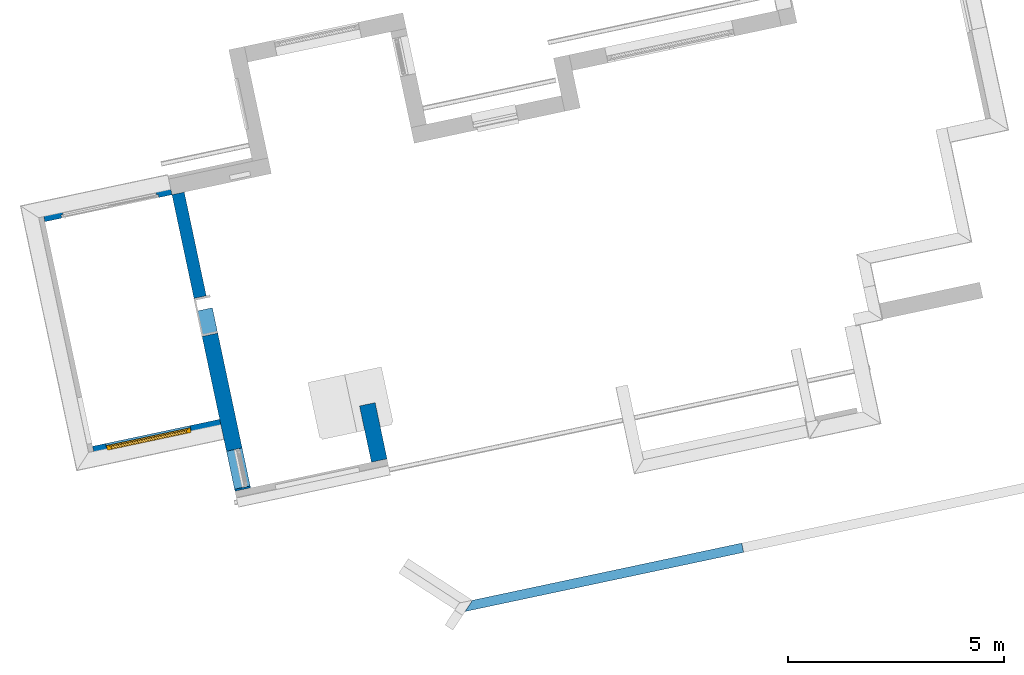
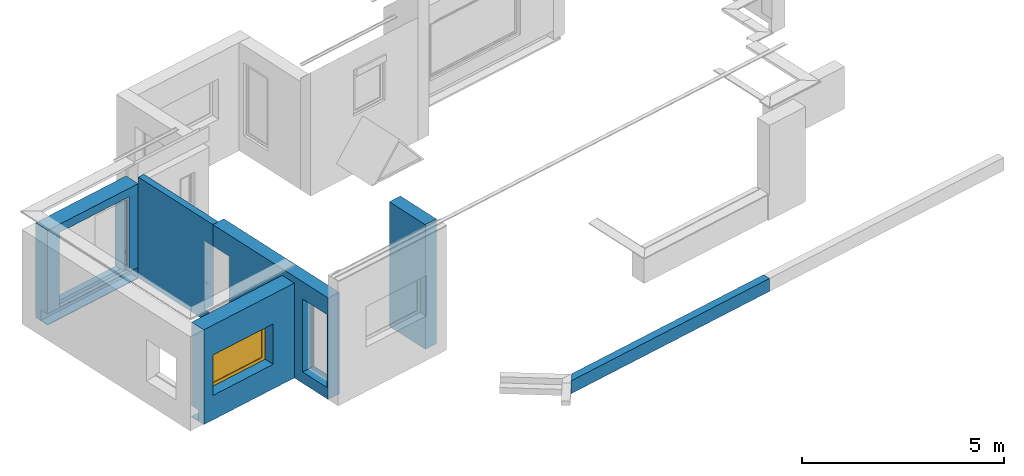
"""IFC2X3 building model written with IfcOpenShell, lengths in centimetres."""

import ifcopenshell
import ifcopenshell.guid

model = None  # the IFC model being written
_history = None  # IfcOwnerHistory: only IFC2X3 demands one
_inside = {}  # id of a spatial element -> (the spatial element, [elements in it])
_under = {}  # id of a project, library or spatial element -> (it, [spatial elements below it])
_declared = {}  # id of a project -> (the project, [libraries it declares])
_typed = {}  # id of a type object -> (the type object, [elements of that type])
_made_of = {}  # id of a material, layer set ... -> (it, [elements and type objects made of it])


def new_model(schema):
    """Start an empty IFC model of exactly this schema.

    Asked for "IFC4X3", IfcOpenShell would pick the latest addendum, in which some entities
    have other attributes; the version numbers below select the first issue.
    IFC2X3 requires an IfcOwnerHistory on every rooted entity: one is made here for all.
    """
    global model, _history
    if schema == "IFC4X3":
        model = ifcopenshell.file(schema_version=(4, 3, 0, 0))
    else:
        model = ifcopenshell.file(schema=schema)
    _inside.clear()
    _under.clear()
    _declared.clear()
    _typed.clear()
    _made_of.clear()
    _history = None
    if model.schema == "IFC2X3":
        org = make("IfcOrganization", Name="unknown")
        user = make(
            "IfcPersonAndOrganization",
            ThePerson=make("IfcPerson", FamilyName="unknown"),
            TheOrganization=org,
        )
        app = make(
            "IfcApplication",
            ApplicationDeveloper=org,
            Version="unknown",
            ApplicationFullName="unknown",
            ApplicationIdentifier="unknown",
        )
        _history = make(
            "IfcOwnerHistory",
            OwningUser=user,
            OwningApplication=app,
            ChangeAction="ADDED",
            CreationDate=0,
        )
    return model


def make(cls, **values):
    """One entity of the class cls with the attributes given. An attribute that is None is left unset."""
    return model.create_entity(
        cls, **{name: value for name, value in values.items() if value is not None}
    )


def entity(cls, *values):
    """Any entity or typed value of the class cls, its attributes in the order of the schema. None: left unset."""
    e = model.create_entity(cls)
    for i, value in enumerate(values):
        if value is not None:
            e[i] = value
    return e


def rooted(cls, **values):
    """An entity with a GlobalId (a new one), such as an element, a storey or a relation."""
    return make(cls, GlobalId=ifcopenshell.guid.new(), OwnerHistory=_history, **values)


def si_unit(unit_type, name, prefix=None):
    """IfcSIUnit, for example si_unit("LENGTHUNIT", "METRE", prefix="MILLI")."""
    return make("IfcSIUnit", UnitType=unit_type, Prefix=prefix, Name=name)


def converted_unit(unit_type, name, factor, base, dimensions=None, offset=None):
    """IfcConversionBasedUnit, such as the inch: factor (a typed value) times the base unit."""
    return make(
        "IfcConversionBasedUnit"
        if offset is None
        else "IfcConversionBasedUnitWithOffset",
        ConversionOffset=offset,
        Dimensions=None
        if dimensions is None
        else entity("IfcDimensionalExponents", *dimensions),
        UnitType=unit_type,
        Name=name,
        ConversionFactor=make(
            "IfcMeasureWithUnit", ValueComponent=factor, UnitComponent=base
        ),
    )


def derived_unit(unit_type, elements):
    """IfcDerivedUnit: a product of units, each with its exponent."""
    return make(
        "IfcDerivedUnit",
        Elements=[
            make("IfcDerivedUnitElement", Unit=unit, Exponent=power)
            for unit, power in elements
        ],
        UnitType=unit_type,
    )


def assignment(units):
    """IfcUnitAssignment: the units of a project."""
    return None if units is None else make("IfcUnitAssignment", Units=units)


def point(xyz):
    """IfcCartesianPoint."""
    return None if xyz is None else make("IfcCartesianPoint", Coordinates=xyz)


def direction(xyz):
    """IfcDirection."""
    return None if xyz is None else make("IfcDirection", DirectionRatios=xyz)


def frame(location, z_axis=None, x_axis=None):
    """IfcAxis2Placement3D, a coordinate frame: its origin and axes. An axis left out is left unset."""
    return make(
        "IfcAxis2Placement3D",
        Location=point(location),
        Axis=direction(z_axis),
        RefDirection=direction(x_axis),
    )


def frame_2d(location, x_axis=None):
    """IfcAxis2Placement2D, a coordinate frame in the plane: its origin and x axis."""
    return make(
        "IfcAxis2Placement2D", Location=point(location), RefDirection=direction(x_axis)
    )


def origin():
    """The frame at (0, 0, 0) with its axes left unset."""
    return frame((0.0, 0.0, 0.0))


def place(relative_to, where):
    """IfcLocalPlacement: puts the frame where relative to a parent placement (None: the world)."""
    return make(
        "IfcLocalPlacement", PlacementRelTo=relative_to, RelativePlacement=where
    )


def context(
    kind, dimensions, precision=None, world=None, true_north=None, identifier=None
):
    """IfcGeometricRepresentationContext, for example the 3D "Model" context."""
    return make(
        "IfcGeometricRepresentationContext",
        ContextIdentifier=identifier,
        ContextType=kind,
        CoordinateSpaceDimension=dimensions,
        Precision=precision,
        WorldCoordinateSystem=world,
        TrueNorth=true_north,
    )


def subcontext(parent, identifier, kind, view, scale=None):
    """IfcGeometricRepresentationSubContext, for example "Body" below "Model"."""
    return make(
        "IfcGeometricRepresentationSubContext",
        ContextIdentifier=identifier,
        ContextType=kind,
        ParentContext=parent,
        TargetScale=scale,
        TargetView=view,
    )


def project(units=None, contexts=None):
    """IfcProject with its units and contexts."""
    return rooted(
        "IfcProject",
        Name="project",
        RepresentationContexts=contexts,
        UnitsInContext=assignment(units),
    )


def spatial(cls, under=None, at=None, **own):
    """A site, building, storey or space (cls), placed at a placement, below another one or the project."""
    s = rooted(cls, ObjectPlacement=at, **own)
    if under is not None:
        _under.setdefault(under.id(), (under, []))[1].append(s)
    return s


def polyline(points):
    """IfcPolyline through the points."""
    return make("IfcPolyline", Points=[point(p) for p in points])


def profile(cls, at=None, kind="AREA", **sizes):
    """A parametric profile (cls). Its sizes go by their IFC names, for example OverallWidth=200.0."""
    return make(cls, ProfileType=kind, Position=at, **sizes)


def rectangle(**sizes):
    """IfcRectangleProfileDef."""
    return profile("IfcRectangleProfileDef", **sizes)


def outline(outer, holes=None, kind="AREA"):
    """IfcArbitraryClosedProfileDef: a profile drawn as a closed curve; with holes, ...WithVoids."""
    if holes is None:
        return make("IfcArbitraryClosedProfileDef", ProfileType=kind, OuterCurve=outer)
    return make(
        "IfcArbitraryProfileDefWithVoids",
        ProfileType=kind,
        OuterCurve=outer,
        InnerCurves=holes,
    )


def extrude(swept, where, along, depth):
    """IfcExtrudedAreaSolid: the profile swept, set in the frame where, extruded along a direction by depth."""
    return make(
        "IfcExtrudedAreaSolid",
        SweptArea=swept,
        Position=where,
        ExtrudedDirection=direction(along),
        Depth=depth,
    )


def clip(a, b, op="DIFFERENCE"):
    """IfcBooleanClippingResult: the solid a cut by the half space b."""
    return make(
        "IfcBooleanClippingResult", Operator=op, FirstOperand=a, SecondOperand=b
    )


def bounded_halfspace(plane, agree, where, boundary):
    """IfcPolygonalBoundedHalfSpace: a half space limited to a polygon's prism."""
    return make(
        "IfcPolygonalBoundedHalfSpace",
        BaseSurface=make("IfcPlane", Position=plane),
        AgreementFlag=agree,
        Position=where,
        PolygonalBoundary=boundary,
    )


def faces_of(points, faces, orient=None, outer=None):
    """IfcFace entities. A face is a list of loops; a loop is a list of indices into points, from 0.

    orient and outer hold one flag for each loop. By default every Orientation is true, the
    first loop of a face is its IfcFaceOuterBound and the others are IfcFaceBound.
    """
    made = []
    for i, loops in enumerate(faces):
        bounds = []
        for j, loop in enumerate(loops):
            is_outer = j == 0 if outer is None else outer[i][j]
            bounds.append(
                make(
                    "IfcFaceOuterBound" if is_outer else "IfcFaceBound",
                    Bound=make("IfcPolyLoop", Polygon=[points[k] for k in loop]),
                    Orientation=True if orient is None else orient[i][j],
                )
            )
        made.append(make("IfcFace", Bounds=bounds))
    return made


def faceted_brep(points, faces, orient=None, outer=None, voids=None):
    """IfcFacetedBrep: a solid bounded by flat faces; with voids (closed shells), ...WithVoids."""
    shared = [point(p) for p in points]
    hull = make("IfcClosedShell", CfsFaces=faces_of(shared, faces, orient, outer))
    if voids is None:
        return make("IfcFacetedBrep", Outer=hull)
    return make(
        "IfcFacetedBrepWithVoids",
        Outer=hull,
        Voids=[
            make(cls, CfsFaces=faces_of(shared, fs, o, b)) for cls, fs, o, b in voids
        ],
    )


def shape(context_of_items, identifier, shape_type, items):
    """IfcShapeRepresentation: the items that make up one representation, for example the "Body"."""
    return make(
        "IfcShapeRepresentation",
        ContextOfItems=context_of_items,
        RepresentationIdentifier=identifier,
        RepresentationType=shape_type,
        Items=items,
    )


def source(mapping_origin, context_of_items, identifier, shape_type, items):
    """IfcRepresentationMap: a shape defined once, which mapped items show again and again."""
    return make(
        "IfcRepresentationMap",
        MappingOrigin=mapping_origin,
        MappedRepresentation=shape(context_of_items, identifier, shape_type, items),
    )


def transform(
    local_origin,
    x_axis=None,
    y_axis=None,
    z_axis=None,
    scale=None,
    scale2=None,
    scale3=None,
    uniform=True,
):
    """IfcCartesianTransformationOperator3D, or its non-uniform kind. x_axis, y_axis, z_axis: its Axis1, 2, 3."""
    if uniform:
        return make(
            "IfcCartesianTransformationOperator3D",
            Axis1=direction(x_axis),
            Axis2=direction(y_axis),
            LocalOrigin=point(local_origin),
            Scale=scale,
            Axis3=direction(z_axis),
        )
    return make(
        "IfcCartesianTransformationOperator3DnonUniform",
        Axis1=direction(x_axis),
        Axis2=direction(y_axis),
        LocalOrigin=point(local_origin),
        Scale=scale,
        Axis3=direction(z_axis),
        Scale2=scale2,
        Scale3=scale3,
    )


def mapped(mapping_source, mapping_target):
    """IfcMappedItem: shows the shape of a source again, moved by a transform."""
    return make(
        "IfcMappedItem", MappingSource=mapping_source, MappingTarget=mapping_target
    )


def material(Name=None, Category=None):
    """IfcMaterial."""
    return make("IfcMaterial", Name=Name, Category=Category)


def material_list(materials):
    """IfcMaterialList."""
    return make("IfcMaterialList", Materials=materials)


def layer(
    of_material, thickness, ventilated=None, Name=None, Category=None, Priority=None
):
    """IfcMaterialLayer: one layer of a wall or slab, of a material (None: an air gap)."""
    return make(
        "IfcMaterialLayer",
        Material=of_material,
        LayerThickness=thickness,
        IsVentilated=ventilated,
        Name=Name,
        Category=Category,
        Priority=Priority,
    )


def layer_set(layers, Name=None):
    """IfcMaterialLayerSet."""
    return make("IfcMaterialLayerSet", MaterialLayers=layers, LayerSetName=Name)


def layer_usage(for_layer_set, set_direction, sense, offset, extent=None):
    """IfcMaterialLayerSetUsage: how a layer set lies in its element."""
    return make(
        "IfcMaterialLayerSetUsage",
        ForLayerSet=for_layer_set,
        LayerSetDirection=set_direction,
        DirectionSense=sense,
        OffsetFromReferenceLine=offset,
        ReferenceExtent=extent,
    )


def made_of(thing, what):
    """Note that an element or type object is made of a material, layer set ...; save() writes the relation."""
    if what is not None:
        _made_of.setdefault(what.id(), (what, []))[1].append(thing)
    return thing


def type_object(cls, material=None, **own):
    """A type object (cls), such as IfcWallType, which elements share."""
    return made_of(rooted(cls, **own), material)


def type_shapes(of_type, sources):
    """Give a type object the sources (RepresentationMaps) that its elements show as mapped items."""
    of_type.RepresentationMaps = sources


def element(
    cls,
    number,
    at=None,
    inside=None,
    cuts=None,
    type_object=None,
    material=None,
    context=None,
    identifier="Body",
    shape_type=None,
    held_by="IfcProductDefinitionShape",
    body=None,
    shapes=None,
    **own,
):
    """One element of the class cls, such as IfcWall. Its Tag is "e" and its number.

    at: its placement. inside: the storey or other place that contains it. cuts: it is an
    opening in that element (IfcRelVoidsElement). A single representation is given by context,
    identifier, shape_type and body (its items); several are given by shapes. held_by: the class
    of the entity that holds the representations. save() writes the other relations.
    """
    e = rooted(cls, Tag="e%d" % number, ObjectPlacement=at, **own)
    if body is not None:
        shapes = [shape(context, identifier, shape_type, body)]
    if shapes is not None:
        e.Representation = make(held_by, Representations=shapes)
    if inside is not None:
        _inside.setdefault(inside.id(), (inside, []))[1].append(e)
    if cuts is not None:
        rooted(
            "IfcRelVoidsElement", RelatingBuildingElement=cuts, RelatedOpeningElement=e
        )
    if type_object is not None:
        _typed.setdefault(type_object.id(), (type_object, []))[1].append(e)
    return made_of(e, material)


def fill(opening, filler):
    """IfcRelFillsElement: the door or window that sits in an opening."""
    return rooted(
        "IfcRelFillsElement",
        RelatingOpeningElement=opening,
        RelatedBuildingElement=filler,
    )


def aggregate(whole, parts):
    """IfcRelAggregates: a whole, such as a stair, and the parts it consists of."""
    return rooted("IfcRelAggregates", RelatingObject=whole, RelatedObjects=parts)


def save(model, path):
    """Write the relations noted so far, then the file.

    IfcRelAggregates (storeys below a building ...), IfcRelContainedInSpatialStructure (elements
    in a storey), IfcRelDefinesByType, IfcRelAssociatesMaterial and IfcRelDeclares: one each for
    every whole, place, type object, material and project.
    """
    for whole, parts in _under.values():
        aggregate(whole, parts)
    for where, things in _inside.values():
        rooted(
            "IfcRelContainedInSpatialStructure",
            RelatedElements=things,
            RelatingStructure=where,
        )
    for kind, things in _typed.values():
        rooted("IfcRelDefinesByType", RelatedObjects=things, RelatingType=kind)
    for what, things in _made_of.values():
        rooted("IfcRelAssociatesMaterial", RelatedObjects=things, RelatingMaterial=what)
    for by, libraries in _declared.values():
        rooted("IfcRelDeclares", RelatingContext=by, RelatedDefinitions=libraries)
    model.write(path)


model = new_model("IFC2X3")

# Units and contexts
model_context = context("Model", 3, precision=0.001, world=origin(), true_north=direction((6.12303176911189e-17, 1.0)))
body_context = subcontext(model_context, "Body", "Model", "MODEL_VIEW")
ifc_project = project(units=[si_unit("LENGTHUNIT", "METRE", prefix="CENTI"), si_unit("AREAUNIT", "SQUARE_METRE"), si_unit("VOLUMEUNIT", "CUBIC_METRE"), converted_unit("PLANEANGLEUNIT", "DEGREE", entity("IfcRatioMeasure", 0.0174532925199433), si_unit("PLANEANGLEUNIT", "RADIAN"), dimensions=[0, 0, 0, 0, 0, 0, 0]), si_unit("MASSUNIT", "GRAM", prefix="KILO"), derived_unit("MASSDENSITYUNIT", [(si_unit("MASSUNIT", "GRAM", prefix="KILO"), 1), (si_unit("LENGTHUNIT", "METRE"), -3)]), derived_unit("IONCONCENTRATIONUNIT", [(si_unit("MASSUNIT", "GRAM", prefix="KILO"), 1), (si_unit("LENGTHUNIT", "METRE"), -3)]), derived_unit("MOMENTOFINERTIAUNIT", [(si_unit("LENGTHUNIT", "METRE"), 4)]), si_unit("TIMEUNIT", "SECOND"), si_unit("FREQUENCYUNIT", "HERTZ"), si_unit("THERMODYNAMICTEMPERATUREUNIT", "DEGREE_CELSIUS"), derived_unit("THERMALTRANSMITTANCEUNIT", [(si_unit("MASSUNIT", "GRAM", prefix="KILO"), 1), (si_unit("THERMODYNAMICTEMPERATUREUNIT", "KELVIN"), -1), (si_unit("TIMEUNIT", "SECOND"), -3)]), derived_unit("THERMALCONDUCTANCEUNIT", [(si_unit("MASSUNIT", "GRAM", prefix="KILO"), 1), (si_unit("THERMODYNAMICTEMPERATUREUNIT", "KELVIN"), -1), (si_unit("TIMEUNIT", "SECOND"), -3), (si_unit("LENGTHUNIT", "METRE"), 1)]), derived_unit("VOLUMETRICFLOWRATEUNIT", [(si_unit("LENGTHUNIT", "METRE"), 3), (si_unit("TIMEUNIT", "SECOND"), -1)]), derived_unit("MASSFLOWRATEUNIT", [(si_unit("MASSUNIT", "GRAM", prefix="KILO"), 1), (si_unit("TIMEUNIT", "SECOND"), -1)]), derived_unit("ROTATIONALFREQUENCYUNIT", [(si_unit("TIMEUNIT", "SECOND"), -1)]), si_unit("ELECTRICCURRENTUNIT", "AMPERE"), si_unit("ELECTRICVOLTAGEUNIT", "VOLT"), si_unit("POWERUNIT", "WATT"), si_unit("FORCEUNIT", "NEWTON", prefix="KILO"), si_unit("ILLUMINANCEUNIT", "LUX"), si_unit("LUMINOUSFLUXUNIT", "LUMEN"), si_unit("LUMINOUSINTENSITYUNIT", "CANDELA"), derived_unit("USERDEFINED", [(si_unit("MASSUNIT", "GRAM", prefix="KILO"), -1), (si_unit("LENGTHUNIT", "METRE"), -2), (si_unit("TIMEUNIT", "SECOND"), 3), (si_unit("LUMINOUSFLUXUNIT", "LUMEN"), 1)]), derived_unit("USERDEFINED", [(si_unit("MASSUNIT", "GRAM", prefix="KILO"), 1), (si_unit("TIMEUNIT", "SECOND"), -3), (si_unit("LENGTHUNIT", "METRE"), 3), (si_unit("ELECTRICCURRENTUNIT", "AMPERE"), -2)]), derived_unit("SOUNDPOWERUNIT", [(si_unit("MASSUNIT", "GRAM", prefix="KILO"), 1), (si_unit("TIMEUNIT", "SECOND"), -3), (si_unit("LENGTHUNIT", "METRE"), 2)]), derived_unit("SOUNDPRESSUREUNIT", [(si_unit("MASSUNIT", "GRAM", prefix="KILO"), 1), (si_unit("LENGTHUNIT", "METRE"), -1), (si_unit("TIMEUNIT", "SECOND"), -2)]), derived_unit("LINEARVELOCITYUNIT", [(si_unit("LENGTHUNIT", "METRE"), 1), (si_unit("TIMEUNIT", "SECOND"), -1)]), si_unit("PRESSUREUNIT", "PASCAL"), derived_unit("USERDEFINED", [(si_unit("MASSUNIT", "GRAM", prefix="KILO"), 1), (si_unit("LENGTHUNIT", "METRE"), -2), (si_unit("TIMEUNIT", "SECOND"), -2)]), derived_unit("LINEARFORCEUNIT", [(si_unit("MASSUNIT", "GRAM", prefix="KILO"), 1), (si_unit("TIMEUNIT", "SECOND"), -2)]), derived_unit("PLANARFORCEUNIT", [(si_unit("MASSUNIT", "GRAM", prefix="KILO"), 1), (si_unit("LENGTHUNIT", "METRE"), -1), (si_unit("TIMEUNIT", "SECOND"), -2)]), derived_unit("SPECIFICHEATCAPACITYUNIT", [(si_unit("THERMODYNAMICTEMPERATUREUNIT", "KELVIN"), -1), (si_unit("LENGTHUNIT", "METRE"), 2), (si_unit("TIMEUNIT", "SECOND"), -2)]), derived_unit("HEATINGVALUEUNIT", [(si_unit("LENGTHUNIT", "METRE"), 2), (si_unit("TIMEUNIT", "SECOND"), -2)]), derived_unit("VAPORPERMEABILITYUNIT", [(si_unit("LENGTHUNIT", "METRE"), -1), (si_unit("TIMEUNIT", "SECOND"), 1)]), derived_unit("DYNAMICVISCOSITYUNIT", [(si_unit("MASSUNIT", "GRAM", prefix="KILO"), 1), (si_unit("TIMEUNIT", "SECOND"), -1), (si_unit("LENGTHUNIT", "METRE"), -1)]), derived_unit("THERMALEXPANSIONCOEFFICIENTUNIT", [(si_unit("THERMODYNAMICTEMPERATUREUNIT", "KELVIN"), -1)]), derived_unit("MODULUSOFELASTICITYUNIT", [(si_unit("MASSUNIT", "GRAM", prefix="KILO"), 1), (si_unit("LENGTHUNIT", "METRE"), -1), (si_unit("TIMEUNIT", "SECOND"), -2)]), derived_unit("ISOTHERMALMOISTURECAPACITYUNIT", [(si_unit("LENGTHUNIT", "METRE"), 3), (si_unit("MASSUNIT", "GRAM", prefix="KILO"), -1)]), derived_unit("MOISTUREDIFFUSIVITYUNIT", [(si_unit("TIMEUNIT", "SECOND"), -1), (si_unit("LENGTHUNIT", "METRE"), 2)])], contexts=[model_context])

# Site, building, storey
site_placement = place(None, frame((14083.8920177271, -6853.25409548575, 6900.0), z_axis=(0.0, 0.0, 1.0), x_axis=(0.978188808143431, 0.207717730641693, 0.0)))
site = spatial("IfcSite", under=ifc_project, at=site_placement, Name="Surface", CompositionType="ELEMENT")
building_placement = place(site_placement, origin())
building = spatial("IfcBuilding", under=site, at=building_placement, CompositionType="ELEMENT")
storey_1_placement = place(building_placement, frame((0.0, 0.0, -17.0)))
storey_1 = spatial("IfcBuildingStorey", under=building, at=storey_1_placement, Name="Rez de chaussée (SD)", CompositionType="ELEMENT", Elevation=-16.9999999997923)

# Wall
ifc_material_1 = material(Name="__ ENDUIT_Blanc")
ifc_layer_1 = layer(ifc_material_1, 2.0)
ifc_material_2 = material(Name="__ BETON_parpaings")
ifc_layer_2 = layer(ifc_material_2, 20.0)
ifc_material_3 = material(Name="__ ISOLANT (pat 1)")
ifc_layer_3 = layer(ifc_material_3, 13.0)
ifc_layer_4 = layer(ifc_material_1, 2.0)
ifc_layer_set_1 = layer_set([ifc_layer_1, ifc_layer_2, ifc_layer_3, ifc_layer_4], Name="Mur de base:*BRIQUE 37 (20 +INT 13+2 + EXT 2) (Iso+BA13)(enduit)")
ifc_layer_usage_1 = layer_usage(ifc_layer_set_1, "AXIS2", "POSITIVE", -18.5)
wall_type_1 = type_object("IfcWallType", Name="Mur de base:*BRIQUE 37 (20 +INT 13+2 + EXT 2) (Iso+BA13)(enduit)", PredefinedType="STANDARD", material=ifc_layer_set_1)
wall_1_placement = place(storey_1_placement, frame((-7395.59727892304, 14712.6724778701, 0.0), z_axis=(0.0, 0.0, 1.0), x_axis=(0.0, 1.0, 0.0)))
element("IfcWallStandardCase", 1, at=wall_1_placement, inside=storey_1, type_object=wall_type_1, material=ifc_layer_usage_1, Name="Mur de base:*BRIQUE 37 (20 +INT 13+2 + EXT 2) (Iso+BA13)(enduit)", ObjectType="Mur de base:*BRIQUE 37 (20 +INT 13+2 + EXT 2) (Iso+BA13)(enduit)", context=body_context, shape_type="SweptSolid", body=[
    extrude(rectangle(XDim=132.999999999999, YDim=37.0000000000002, at=frame_2d((66.4999999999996, -3.26849658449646e-13), x_axis=(-1.0, 0.0))), origin(), (0.0, 0.0, 1.0), 375.999999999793),
])

# Wall, openings
ifc_layer_usage_2 = layer_usage(ifc_layer_set_1, "AXIS2", "NEGATIVE", 18.5)
wall_2_placement = place(storey_1_placement, frame((-7718.4551432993, 14712.6724778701, 0.0), z_axis=(0.0, 0.0, 1.0), x_axis=(0.0, 1.0, 0.0)))
wall_2 = element("IfcWallStandardCase", 2, at=wall_2_placement, inside=storey_1, type_object=wall_type_1, material=ifc_layer_usage_2, Name="Mur de base:*BRIQUE 37 (20 +INT 13+2 + EXT 2) (Iso+BA13)(enduit)", ObjectType="Mur de base:*BRIQUE 37 (20 +INT 13+2 + EXT 2) (Iso+BA13)(enduit)", context=body_context, shape_type="SweptSolid", body=[
    extrude(rectangle(XDim=425.999999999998, YDim=37.0000000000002, at=frame_2d((212.999999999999, -3.5527136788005e-14), x_axis=(-1.0, 0.0))), origin(), (0.0, 0.0, 1.0), 305.999999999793),
])
opening_1_placement = place(wall_2_placement, origin())
element("IfcOpeningElement", 3, at=opening_1_placement, cuts=wall_2, Name="Mur de base:*BRIQUE 37 (20 +INT 13+2 + EXT 2) (Iso+BA13)(enduit)", ObjectType="Opening", context=body_context, shape_type="SweptSolid", body=[
    extrude(rectangle(XDim=207.5, YDim=7.00000000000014, at=frame_2d((-8.66418048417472e-13, 0.0), x_axis=(0.0, 1.0))), frame((362.49486685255, -123.499999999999, 137.750000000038), z_axis=(0.0, 1.0, 0.0), x_axis=(1.0, 0.0, 0.0)), (0.0, 0.0, 1.0), 90.0000000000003),
])
opening_2_placement = place(wall_2_placement, frame((4.45997477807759, 21.0, 28.3850445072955), z_axis=(0.0, 0.0, 1.0), x_axis=(0.0, -1.0, 0.0)))
element("IfcOpeningElement", 4, at=opening_2_placement, cuts=wall_2, Name="Mur de base:*BRIQUE 37 (20 +INT 13+2 + EXT 2) (Iso+BA13)(enduit)", ObjectType="Opening", context=body_context, shape_type="Brep", body=[
    faceted_brep([(39.5000000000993, 90.0, 225.614955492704), (39.5000000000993, 0.0, 225.614955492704), (39.5000000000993, 0.0, 5.61495549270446), (39.5000000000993, 90.0, 5.61495549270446), (2.50000000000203, 90.0, 225.614955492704), (2.50000000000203, 90.0, 5.61495549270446), (2.50000000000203, 0.0999999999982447, 5.61495549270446), (2.50000000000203, 0.0, 5.61495549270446), (2.50000000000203, 0.0, 225.614955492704), (34.2000000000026, 90.0, 225.614955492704), (34.2000000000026, 90.0, 225.714955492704), (34.3000000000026, 90.0, 225.714955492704), (34.3000000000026, 90.0, 225.614955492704), (33.0, 0.0, 5.61495549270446), (33.0, 0.0999999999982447, 5.61495549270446), (34.3000000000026, 0.0, 225.614955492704), (34.3000000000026, 0.0, 225.714955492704), (34.2000000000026, 0.0, 225.714955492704), (34.2000000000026, 0.0, 225.614955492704), (14.3000000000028, 0.0, 225.614955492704), (14.3000000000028, 0.0, 225.714955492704), (14.2000000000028, 0.0, 225.714955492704), (14.2000000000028, 0.0, 225.614955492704), (0.0, 0.0, 5.61495549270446), (0.0, 0.0, 0.0), (30.5025116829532, 0.0, 2.11559678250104), (33.0, 0.0, 2.11559678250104), (30.5025116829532, 0.0999999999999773, 2.11559678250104), (0.0, 0.0999999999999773, 0.0), (0.0, 0.0999999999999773, 5.61495549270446), (33.0, 0.0999999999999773, 2.11559678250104), (14.3000000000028, 0.0999999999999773, 225.714955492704), (14.3000000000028, 0.0999999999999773, 225.614955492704), (14.2000000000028, 0.0999999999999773, 225.614955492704), (14.2000000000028, 0.0999999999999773, 225.714955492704)], [[[0, 1, 2, 3]], [[4, 5, 6, 7, 8]], [[0, 3, 5, 4, 9, 10, 11, 12]], [[3, 2, 13, 14, 6, 5]], [[2, 1, 15, 16, 17, 18, 19, 20, 21, 22, 8, 7, 23, 24, 25, 26, 13]], [[1, 0, 12, 15]], [[27, 28, 29, 6, 14, 30]], [[27, 30, 26, 25]], [[30, 14, 13, 26]], [[29, 23, 7, 6]], [[29, 28, 24, 23]], [[28, 27, 25, 24]], [[31, 32, 33, 34]], [[31, 34, 21, 20]], [[34, 33, 22, 21]], [[32, 31, 20, 19]], [[12, 11, 16, 15]], [[11, 10, 17, 16]], [[10, 9, 18, 17]], [[4, 8, 22, 33, 32, 19, 18, 9]]]),
])
opening_3_placement = place(wall_2_placement, frame((365.994866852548, -18.5000000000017, 34.0)))
element("IfcOpeningElement", 5, at=opening_3_placement, cuts=wall_2, Name="*Porte_alveolaire:Pp 83 x 204:1", ObjectType="Opening", context=body_context, shape_type="SweptSolid", body=[
    extrude(rectangle(XDim=207.5, YDim=89.9999999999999, at=frame_2d((103.75, 45.0), x_axis=(1.0, 0.0))), frame((0.0, 0.0, 0.0), z_axis=(0.0, 1.0, 0.0), x_axis=(0.0, 0.0, 1.0)), (0.0, 0.0, 1.0), 37.0),
])

ifc_material_4 = material(Name="__ PIERRE______________________TEST")
ifc_layer_5 = layer(ifc_material_4, 10.0)
ifc_layer_6 = layer(ifc_material_2, 20.0)
ifc_layer_7 = layer(ifc_material_3, 13.0)
ifc_layer_8 = layer(ifc_material_1, 2.0)
ifc_layer_set_2 = layer_set([ifc_layer_5, ifc_layer_6, ifc_layer_7, ifc_layer_8], Name="Mur de base:*Mur (45) maçonné isolé + parement pierre")
ifc_layer_usage_3 = layer_usage(ifc_layer_set_2, "AXIS2", "NEGATIVE", 22.5)
wall_type_2 = type_object("IfcWallType", Name="Mur de base:*Mur (45) maçonné isolé + parement pierre", PredefinedType="STANDARD", material=ifc_layer_set_2)
wall_3_placement = place(storey_1_placement, frame((-8037.7551432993, 15436.4391445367, 0.0)))
wall_3 = element("IfcWallStandardCase", 6, at=wall_3_placement, inside=storey_1, type_object=wall_type_2, material=ifc_layer_usage_3, Name="Mur de base:*Mur (45) maçonné isolé + parement pierre", ObjectType="Mur de base:*Mur (45) maçonné isolé + parement pierre", context=body_context, shape_type="SweptSolid", body=[
    extrude(rectangle(XDim=300.800000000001, YDim=45.0000000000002, at=frame_2d((150.4, 0.0), x_axis=(-1.0, 0.0))), origin(), (0.0, 0.0, 1.0), 285.999999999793),
])
opening_4_placement = place(storey_1_placement, frame((-8037.7551432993, 15436.4391445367, 0.0)))
element("IfcOpeningElement", 7, at=opening_4_placement, cuts=wall_3, Name="Mur de base:*Mur (45) maçonné isolé + parement pierre:1", ObjectType="Opening", context=body_context, shape_type="SweptSolid", body=[
    extrude(rectangle(XDim=300.000000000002, YDim=24.9999999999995, at=frame_2d((-4.40536496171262e-13, 8.66862137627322e-13), x_axis=(1.0, 0.0))), frame((150.0, -10.0, 2.0), z_axis=(0.0, 0.0, 1.0), x_axis=(-1.0, 0.0, 0.0)), (0.0, 0.0, 1.0), 32.0),
])
opening_5_placement = place(wall_3_placement, frame((39.7999999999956, -50.0, 27.7207768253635)))
element("IfcOpeningElement", 8, at=opening_5_placement, cuts=wall_3, Name="Mur de base:*Mur (45) maçonné isolé + parement pierre", ObjectType="Opening", context=body_context, shape_type="Brep", body=[
    faceted_brep([(225.0, 0.0, 8.2792231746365), (225.0, 0.0, 228.279223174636), (5.0, 0.0, 228.279223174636), (5.0, 0.0, 8.2792231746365), (225.0, 27.5000000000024, 228.279223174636), (5.0, 27.5000000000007, 228.279223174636), (225.0, 27.5000000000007, 8.2792231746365), (230.0, 27.5000000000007, 8.2792231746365), (230.0, 27.5000000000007, 233.279223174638), (0.0, 27.5000000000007, 233.279223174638), (0.0, 27.5000000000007, 8.2792231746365), (5.0, 27.5000000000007, 8.2792231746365), (225.0, 35.4999999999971, 8.2792231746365), (225.0, 35.4999999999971, 6.7792231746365), (225.0, 100.0, 0.0), (225.0, 100.0, 228.279223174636), (225.0, 37.4999999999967, 228.279223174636), (225.0, 37.4999999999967, 8.2792231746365), (0.0, 34.5000000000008, 8.2792231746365), (4.0, 34.5000000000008, 8.2792231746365), (4.0, 37.4999999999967, 8.2792231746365), (5.0, 37.4999999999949, 8.27922317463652), (5.0, 35.4999999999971, 8.2792231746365), (226.0, 37.4999999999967, 8.2792231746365), (226.0, 34.5000000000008, 8.2792231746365), (230.0, 34.5000000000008, 8.2792231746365), (5.0, 100.0, 0.0), (5.0, 100.0, 228.279223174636), (5.0, 35.4999999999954, 6.7792231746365), (230.0, 34.5000000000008, 233.279223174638), (226.0, 34.5000000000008, 229.279223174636), (4.0, 34.5000000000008, 229.279223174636), (0.0, 34.5000000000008, 233.279223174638), (226.0, 37.4999999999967, 229.279223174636), (5.0, 37.4999999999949, 228.279223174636), (4.0, 37.4999999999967, 229.279223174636)], [[[0, 1, 2, 3]], [[2, 1, 4, 5]], [[6, 7, 8, 9, 10, 11, 5, 4]], [[12, 13, 14, 15, 16, 17]], [[3, 2, 5, 11]], [[0, 3, 11, 10, 18, 19, 20, 21, 22, 12, 17, 23, 24, 25, 7, 6]], [[15, 14, 26, 27]], [[14, 13, 28, 26]], [[13, 12, 22, 28]], [[7, 25, 29, 8]], [[25, 24, 30, 31, 19, 18, 32, 29]], [[24, 23, 33, 30]], [[23, 17, 16, 34, 21, 20, 35, 33]], [[8, 29, 32, 9]], [[31, 30, 33, 35]], [[32, 18, 10, 9]], [[19, 31, 35, 20]], [[27, 26, 28, 22, 21, 34]], [[1, 0, 6, 4]], [[15, 27, 34, 16]]]),
])

wall_4_placement = place(storey_1_placement, frame((-7736.9551432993, 14860.1724778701, 0.0), z_axis=(0.0, 0.0, 1.0), x_axis=(-1.0, 0.0, 0.0)))
wall_4 = element("IfcWallStandardCase", 9, at=wall_4_placement, inside=storey_1, type_object=wall_type_2, material=ifc_layer_usage_3, Name="Mur de base:*Mur (45) maçonné isolé + parement pierre", ObjectType="Mur de base:*Mur (45) maçonné isolé + parement pierre", context=body_context, shape_type="SweptSolid", body=[
    extrude(rectangle(XDim=300.799999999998, YDim=45.0000000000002, at=frame_2d((150.399999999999, 0.0), x_axis=(-1.0, 0.0))), origin(), (0.0, 0.0, 1.0), 285.999999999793),
])
opening_6_placement = place(storey_1_placement, frame((-7736.9551432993, 14860.1724778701, 0.0), z_axis=(0.0, 0.0, 1.0), x_axis=(-1.0, 0.0, 0.0)))
element("IfcOpeningElement", 10, at=opening_6_placement, cuts=wall_4, Name="Mur de base:*Mur (45) maçonné isolé + parement pierre:1", ObjectType="Opening", context=body_context, shape_type="SweptSolid", body=[
    extrude(rectangle(XDim=299.999999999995, YDim=24.9999999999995, at=frame_2d((4.40536496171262e-13, -8.66862137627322e-13), x_axis=(1.0, 0.0))), frame((150.800000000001, -10.0, 2.0), z_axis=(0.0, 0.0, 1.0), x_axis=(-1.0, 0.0, 0.0)), (0.0, 0.0, 1.0), 32.0),
])
opening_7_placement = place(wall_4_placement, frame((70.0, -22.5000000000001, 74.0)))
opening_7 = element("IfcOpeningElement", 11, at=opening_7_placement, cuts=wall_4, Name="OPTIMAL Top Turn Single Window-1:200x120 +VR:1", ObjectType="Opening", context=body_context, shape_type="SweptSolid", body=[
    extrude(rectangle(XDim=122.0, YDim=200.0, at=frame_2d((61.0, 100.000000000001), x_axis=(1.0, 0.0))), frame((0.0, 0.0, 0.0), z_axis=(0.0, 1.0, 0.0), x_axis=(0.0, 0.0, 1.0)), (0.0, 0.0, 1.0), 45.0),
])

# Storey
storey_2_placement = place(building_placement, frame((0.0, 0.0, 17.0)))
storey_2 = spatial("IfcBuildingStorey", under=building, at=storey_2_placement, Name="Rez de chaussée", CompositionType="ELEMENT", Elevation=17.0000000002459)

# Window
ifc_material_5 = material(Name="Fenêtre - Vitrage")
ifc_material_6 = material(Name="__ METAL_gris foncé (menuiseries acier)______________________TEST")
ifc_material_list = material_list([ifc_material_5, ifc_material_6])
window_style = type_object("IfcWindowStyle", Name="OPTIMAL Top Turn Single Window-1:200x120 +VR", ConstructionType="NOTDEFINED", OperationType="NOTDEFINED", ParameterTakesPrecedence=False, Sizeable=False, material=ifc_material_list)
shared_shape = source(origin(), body_context, "Body", "SweptSolid", [
    extrude(rectangle(XDim=0.399999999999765, YDim=178.6, at=frame_2d((0.0, -7.105427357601e-15), x_axis=(1.0, 0.0))), frame((100.0, 10.1000000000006, 10.7000000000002), z_axis=(0.0, 0.0, 1.0), x_axis=(0.0, 1.0, 0.0)), (0.0, 0.0, 1.0), 100.6),
    extrude(rectangle(XDim=0.399999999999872, YDim=178.6, at=frame_2d((0.0, 7.105427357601e-15), x_axis=(1.0, 0.0))), frame((100.0, 14.1000000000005, 10.7000000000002), z_axis=(0.0, 0.0, 1.0), x_axis=(0.0, 1.0, 0.0)), (0.0, 0.0, 1.0), 100.6),
    extrude(outline(polyline([(-54.5, -93.5), (54.5, -93.5), (54.5, 93.5), (-54.5, 93.5), (-54.5, -93.5)]), holes=[polyline([(50.3, -89.3), (-50.2999999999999, -89.3), (-50.2999999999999, 89.3), (50.3, 89.3), (50.3, -89.3)])]), frame((100.0, 8.0, 61.0), z_axis=(0.0, 1.0, 0.0), x_axis=(0.0, 0.0, 1.0)), (0.0, 0.0, 1.0), 8.20000000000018),
    extrude(outline(polyline([(-60.0, -99.0), (60.0, -99.0), (60.0, 99.0), (-60.0, 99.0), (-60.0, -99.0)]), holes=[polyline([(54.5, -93.5), (-54.5, -93.5), (-54.5, 93.5), (54.5, 93.5), (54.5, -93.5)])]), frame((100.0, 5.0, 61.0), z_axis=(0.0, 1.0, 0.0), x_axis=(0.0, 0.0, 1.0)), (0.0, 0.0, 1.0), 11.2000000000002),
])
type_shapes(window_style, [shared_shape])
window_placement = place(opening_7_placement, origin())
window = element("IfcWindow", 12, at=window_placement, inside=storey_2, type_object=window_style, material=ifc_material_list, Name="OPTIMAL Top Turn Single Window-1:200x120 +VR", ObjectType="OPTIMAL Top Turn Single Window-1:200x120 +VR", OverallHeight=122.0, OverallWidth=200.000000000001, context=body_context, shape_type="MappedRepresentation", body=[
    mapped(shared_shape, transform((0.0, 0.0, 0.0), scale=1.0)),
])

fill(opening_7, window)

# Wall
ifc_layer_9 = layer(ifc_material_4, 2.0)
ifc_material_7 = material(Name="__ BETON______________________TEST")
ifc_layer_10 = layer(ifc_material_7, 20.0)
ifc_layer_set_3 = layer_set([ifc_layer_9, ifc_layer_10], Name="Mur de base:*BETON 22 (20 + EXT 2) (parement)")
ifc_layer_usage_4 = layer_usage(ifc_layer_set_3, "AXIS2", "POSITIVE", -11.0)
wall_type_3 = type_object("IfcWallType", Name="Mur de base:*BETON 22 (20 + EXT 2) (parement)", PredefinedType="STANDARD", material=ifc_layer_set_3)
wall_5_placement = place(storey_1_placement, frame((-7274.02129771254, 14340.5964966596, 0.0)))
element("IfcWallStandardCase", 13, at=wall_5_placement, inside=storey_1, type_object=wall_type_3, material=ifc_layer_usage_4, Name="Mur de base:*BETON 22 (20 + EXT 2) (parement)", ObjectType="Mur de base:*BETON 22 (20 + EXT 2) (parement)", context=body_context, shape_type="SweptSolid", body=[
    extrude(outline(polyline([(659.104014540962, -11.0), (659.104014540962, 11.0), (22.0, 11.0), (0.0, -11.0), (659.104014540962, -11.0)])), origin(), (0.0, 0.0, 1.0), 39.0000000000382),
])

# Wall, openings
ifc_layer_11 = layer(ifc_material_1, 2.0)
ifc_layer_12 = layer(ifc_material_2, 20.0)
ifc_layer_13 = layer(ifc_material_3, 5.0)
ifc_layer_14 = layer(ifc_material_1, 2.0)
ifc_layer_set_4 = layer_set([ifc_layer_11, ifc_layer_12, ifc_layer_13, ifc_layer_14], Name="Mur de base:*BRIQUE 37 (20 +INT 6+2 + EXT 2) (Iso+BA13)(enduit)")
ifc_layer_usage_5 = layer_usage(ifc_layer_set_4, "AXIS2", "POSITIVE", -14.5)
wall_type_4 = type_object("IfcWallType", Name="Mur de base:*BRIQUE 37 (20 +INT 6+2 + EXT 2) (Iso+BA13)(enduit)", PredefinedType="STANDARD", material=ifc_layer_set_4)
wall_6_placement = place(storey_1_placement, frame((-7722.4551432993, 15413.9391445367, 2.0), z_axis=(0.0, 0.0, 1.0), x_axis=(0.0, -1.0, 0.0)))
wall_6 = element("IfcWallStandardCase", 14, at=wall_6_placement, inside=storey_1, type_object=wall_type_4, material=ifc_layer_usage_5, Name="Mur de base:*BRIQUE 37 (20 +INT 6+2 + EXT 2) (Iso+BA13)(enduit)", ObjectType="Mur de base:*BRIQUE 37 (20 +INT 6+2 + EXT 2) (Iso+BA13)(enduit)", context=body_context, shape_type="Clipping", body=[
    clip(clip(clip(clip(extrude(rectangle(XDim=275.266666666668, YDim=29.0000000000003, at=frame_2d((137.633333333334, -1.07469588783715e-13), x_axis=(-1.0, 0.0))), origin(), (0.0, 0.0, 1.0), 303.999999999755), bounded_halfspace(frame((275.266666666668, 4.0, 304.0), z_axis=(0.0, -1.0, 0.0), x_axis=(0.0, 0.0, 1.0)), True, frame((275.266666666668, 4.0, 304.0), z_axis=(0.0, -1.0, 0.0), x_axis=(0.0, 0.0, 1.0)), polyline([(0.0, 0.0), (0.0, 275.266666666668), (-20.0, 275.266666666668), (-20.0, 0.0), (0.0, 0.0)]))), bounded_halfspace(frame((0.0, 4.0, 284.0), z_axis=(0.0, 0.0, -1.0), x_axis=(-1.0, 0.0, 0.0)), True, frame((0.0, 4.0, 284.0), z_axis=(0.0, 0.0, -1.0), x_axis=(-1.0, 0.0, 0.0)), polyline([(0.0, 0.0), (0.0, 10.5000000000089), (-275.266666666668, 10.5000000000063), (-275.266666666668, 0.0), (0.0, 0.0)]))), bounded_halfspace(frame((245.271799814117, -12.5000000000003, 32.0), z_axis=(0.0, 0.0, 1.0), x_axis=(0.0, 1.0, 0.0)), True, frame((245.271799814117, -12.5000000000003, 32.0), z_axis=(0.0, 0.0, 1.0), x_axis=(0.0, 1.0, 0.0)), polyline([(0.0, 0.0), (27.0, 0.0), (27.0, 245.271799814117), (0.0, 245.271799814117), (0.0, 0.0)]))), bounded_halfspace(frame((0.0, -12.4999999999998, 32.0), z_axis=(0.0, -1.0, 0.0), x_axis=(0.0, 0.0, 1.0)), True, frame((0.0, -12.4999999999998, 32.0), z_axis=(0.0, -1.0, 0.0), x_axis=(0.0, 0.0, 1.0)), polyline([(0.0, 0.0), (-32.0, 0.0), (-32.0, -275.266666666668), (0.0, -275.266666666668), (0.0, -245.271799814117), (0.0, 0.0)]))),
])
opening_8_placement = place(wall_6_placement, origin())
element("IfcOpeningElement", 15, at=opening_8_placement, cuts=wall_6, Name="Mur de base:*BRIQUE 37 (20 +INT 6+2 + EXT 2) (Iso+BA13)(enduit)", ObjectType="Opening", context=body_context, shape_type="SweptSolid", body=[
    extrude(rectangle(XDim=207.5, YDim=89.9999999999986, at=frame_2d((-8.66862137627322e-13, 7.105427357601e-15), x_axis=(0.0, 1.0))), frame((290.271799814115, -166.899999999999, 135.75), z_axis=(0.0, 1.0, 0.0), x_axis=(-1.0, 0.0, 0.0)), (0.0, 0.0, 1.0), 304.800000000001),
])
opening_9_placement = place(wall_6_placement, frame((696.806691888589, -17.0, 26.3850445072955)))
element("IfcOpeningElement", 16, at=opening_9_placement, cuts=wall_6, Name="Mur de base:*BRIQUE 37 (20 +INT 6+2 + EXT 2) (Iso+BA13)(enduit)", ObjectType="Opening", context=body_context, shape_type="Brep", body=[
    faceted_brep([(-90.0, 39.5000000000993, 225.614955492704), (0.0, 39.5000000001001, 225.614955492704), (0.0, 39.5000000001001, 5.61495549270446), (-90.0, 39.5000000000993, 5.61495549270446), (-90.0, 2.50000000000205, 225.614955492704), (-90.0, 2.50000000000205, 5.61495549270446), (-0.0999999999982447, 2.50000000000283, 5.61495549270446), (0.0, 2.50000000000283, 5.61495549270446), (0.0, 2.50000000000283, 225.614955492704), (-90.0, 34.2000000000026, 225.614955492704), (-90.0, 34.2000000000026, 225.714955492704), (-90.0, 34.3000000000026, 225.714955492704), (-90.0, 34.3000000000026, 225.614955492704), (0.0, 33.0, 5.61495549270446), (-0.0999999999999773, 33.0, 5.61495549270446), (0.0, 34.3000000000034, 225.614955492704), (0.0, 34.3000000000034, 225.714955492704), (0.0, 34.2000000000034, 225.714955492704), (0.0, 34.2000000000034, 225.614955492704), (0.0, 14.3000000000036, 225.614955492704), (0.0, 14.3000000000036, 225.714955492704), (0.0, 14.2000000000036, 225.714955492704), (0.0, 14.2000000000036, 225.614955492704), (0.0, 0.0, 5.61495549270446), (0.0, 0.0, 0.0), (0.0, 30.502511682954, 2.11559678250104), (0.0, 33.0, 2.11559678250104), (-0.10000000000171, 30.502511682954, 2.11559678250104), (-0.0999999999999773, 0.0, 0.0), (-0.0999999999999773, 0.0, 5.61495549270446), (-0.10000000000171, 33.0, 2.11559678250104), (-0.0999999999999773, 14.3000000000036, 225.714955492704), (-0.0999999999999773, 14.3000000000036, 225.614955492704), (-0.0999999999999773, 14.2000000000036, 225.614955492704), (-0.0999999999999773, 14.2000000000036, 225.714955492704)], [[[0, 1, 2, 3]], [[4, 5, 6, 7, 8]], [[0, 3, 5, 4, 9, 10, 11, 12]], [[3, 2, 13, 14, 6, 5]], [[2, 1, 15, 16, 17, 18, 19, 20, 21, 22, 8, 7, 23, 24, 25, 26, 13]], [[1, 0, 12, 15]], [[27, 28, 29, 6, 14, 30]], [[27, 30, 26, 25]], [[30, 14, 13, 26]], [[29, 23, 7, 6]], [[29, 28, 24, 23]], [[28, 27, 25, 24]], [[31, 32, 33, 34]], [[31, 34, 21, 20]], [[34, 33, 22, 21]], [[32, 31, 20, 19]], [[12, 11, 16, 15]], [[11, 10, 17, 16]], [[10, 9, 18, 17]], [[4, 8, 22, 33, 32, 19, 18, 9]]]),
])
opening_10_placement = place(wall_6_placement, origin())
element("IfcOpeningElement", 17, at=opening_10_placement, cuts=wall_6, Name="Mur de base:*BRIQUE 37 (20 +INT 6+2 + EXT 2) (Iso+BA13)(enduit)", ObjectType="Opening", context=body_context, shape_type="SweptSolid", body=[
    extrude(rectangle(XDim=207.5, YDim=7.00000000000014, at=frame_2d((-8.66418048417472e-13, 7.105427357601e-15), x_axis=(0.0, 1.0))), frame((338.771799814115, 37.4999999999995, 135.75), z_axis=(0.0, 1.0, 0.0), x_axis=(-1.0, 0.0, 0.0)), (0.0, 0.0, 1.0), 90.0000000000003),
])

save(model, "model.ifc")
